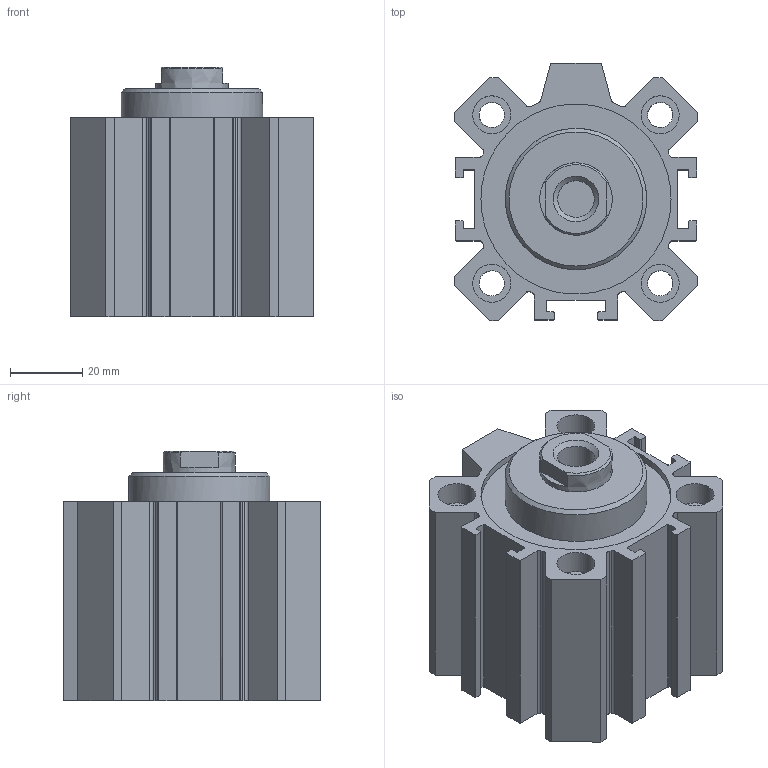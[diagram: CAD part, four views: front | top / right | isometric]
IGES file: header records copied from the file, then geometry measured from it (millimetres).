
Global section: file name: 1511_50_0015; native system: Autodesk Inventor 2014; preprocessor: unknown; author: A. Manieri; date: 20160824.133956; units: millimetre
Bounding box: 67 x 71 x 69 mm (x, y, z)
Volume: 172502.5 mm3; surface area: 54206 mm2
Topology: 2 solids, 2 shells, 165 faces, 443 edges, 300 vertices
Faces by surface type: bspline 165
